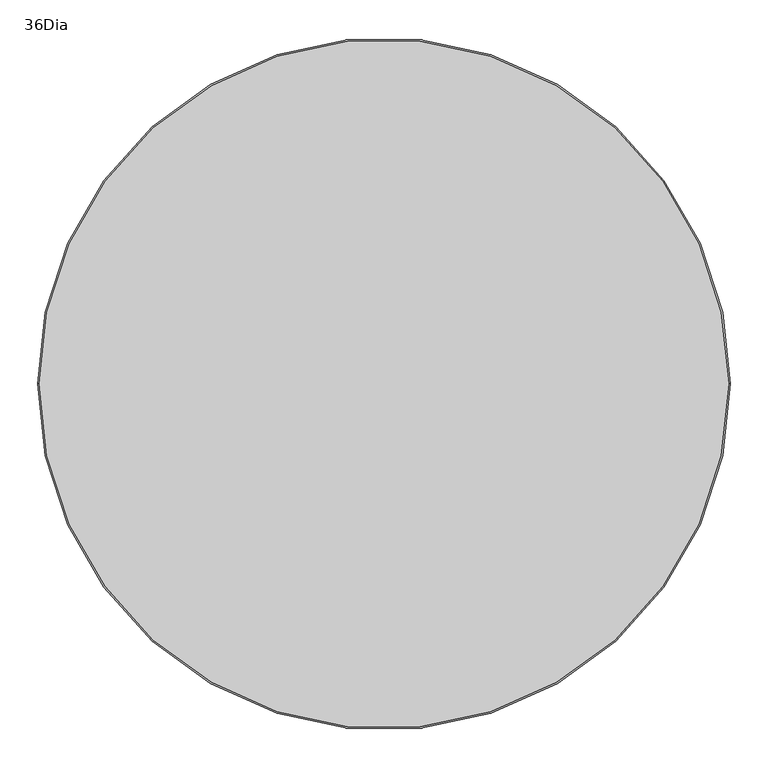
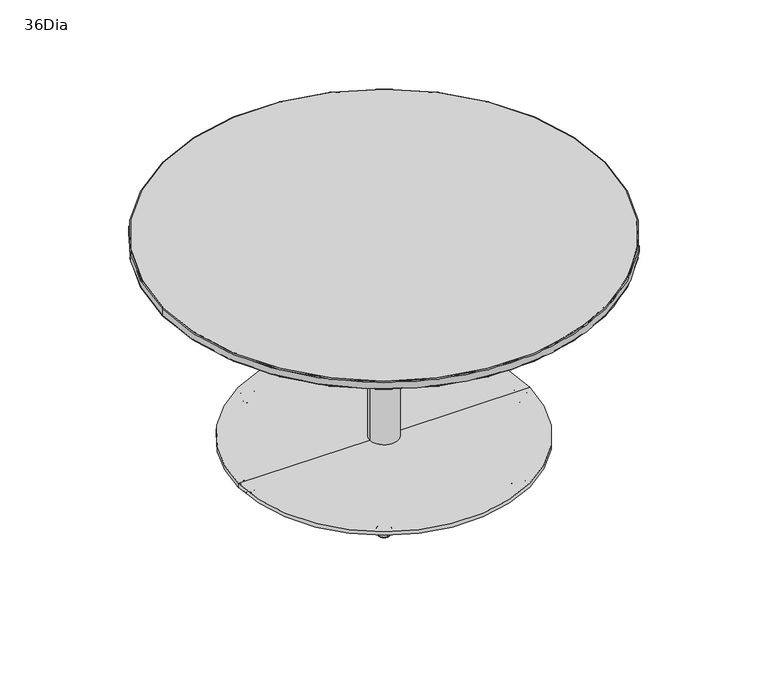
"""IFC4 building model written with IfcOpenShell, lengths in millimetres: furniture geometry, Coalesse_AM_Table_Occasional_Montara650Table_Round : 36Dia."""

from ifc_helpers import new_model, si_unit, point, frame, origin, origin_with_axes, origin_2d, place, context, project, spatial, polyline, circle_curve, ellipse_curve, trimmed, segment, composite_curve, outline, extrude, source, transform, mapped, element, save
from ifc_brep_helpers import plane_surface, cylinder_surface, revolved_surface, advanced_brep


def furniture_36dia_86788407(model_context):
    return source(origin(), model_context, "Body", "SolidModel", [
        advanced_brep(
        [(140.1902286, -242.2232047, 0.0), (147.532871, -249.5658472, 0.0), (132.8475862, -234.8805623, 0.0), (148.0793732, -250.1123493, 0.5718943), (132.301084, -234.3340602, 0.5718943), (150.3784723, -252.4114484, 11.2068005), (130.0019849, -232.0349611, 11.2068005), (149.9634515, -251.9964276, 11.9999882), (130.4170057, -232.4499819, 11.9999882), (140.1902286, -242.2232047, 11.9999882)],
        [
            (0, 1),
            (1, 2, circle_curve(frame((140.1902286, -242.2232047, 0.0), z_axis=(0.0, 0.0, -1.0), x_axis=(0.7071067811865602, -0.7071067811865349, 0.0)), 10.3840645)),
            (2, 0),
            (2, 1, circle_curve(frame((140.1902286, -242.2232047, 0.0), z_axis=(0.0, 0.0, -1.0), x_axis=(0.7071067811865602, -0.7071067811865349, 0.0)), 10.3840645)),
            (1, 3, circle_curve(frame((147.532871, -249.5658472, 0.8081846), z_axis=(-0.7071067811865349, -0.7071067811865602, 0.0), x_axis=(0.7071067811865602, -0.7071067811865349, 0.0)), 0.8081846)),
            (3, 4, circle_curve(frame((140.1902286, -242.2232047, 0.5718943), z_axis=(0.0, 0.0, -1.0), x_axis=(0.7071067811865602, -0.7071067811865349, 0.0)), 11.1569353)),
            (4, 2, circle_curve(frame((132.8475862, -234.8805623, 0.8081846), z_axis=(-0.7071067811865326, -0.7071067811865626, 0.0), x_axis=(-0.7071067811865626, 0.7071067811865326, 0.0)), 0.8081846)),
            (4, 3, circle_curve(frame((140.1902286, -242.2232047, 0.5718943), z_axis=(0.0, 0.0, -1.0), x_axis=(0.7071067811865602, -0.7071067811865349, 0.0)), 11.1569353)),
            (3, 5),
            (5, 6, circle_curve(frame((140.1902286, -242.2232047, 11.2068005), z_axis=(0.0, 0.0, -1.0), x_axis=(0.7071067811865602, -0.7071067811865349, 0.0)), 14.4083524)),
            (6, 4),
            (6, 5, circle_curve(frame((140.1902286, -242.2232047, 11.2068005), z_axis=(0.0, 0.0, -1.0), x_axis=(0.7071067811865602, -0.7071067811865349, 0.0)), 14.4083524)),
            (5, 7, circle_curve(frame((149.9634515, -251.9964276, 11.3862424), z_axis=(-0.7071067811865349, -0.7071067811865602, 0.0), x_axis=(0.7071067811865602, -0.7071067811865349, 0.0)), 0.6137458)),
            (7, 8, circle_curve(frame((140.1902286, -242.2232047, 11.9999882), z_axis=(0.0, 0.0, -1.0), x_axis=(0.7071067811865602, -0.7071067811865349, 0.0)), 13.8214243)),
            (8, 6, circle_curve(frame((130.4170057, -232.4499819, 11.3862424), z_axis=(-0.7071067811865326, -0.7071067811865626, 0.0), x_axis=(-0.7071067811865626, 0.7071067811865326, 0.0)), 0.6137458)),
            (8, 7, circle_curve(frame((140.1902286, -242.2232047, 11.9999882), z_axis=(0.0, 0.0, -1.0), x_axis=(0.7071067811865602, -0.7071067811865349, 0.0)), 13.8214243)),
            (7, 9),
            (9, 8),
        ],
        [
            plane_surface(frame((140.1902286, -242.2232047, 0.0), z_axis=(0.0, 0.0, -1.0000000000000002), x_axis=(0.7071067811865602, -0.7071067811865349, 0.0))),
            revolved_surface(trimmed(ellipse_curve(frame((147.532871, -249.5658472, 0.8081846), z_axis=(0.7071067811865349, 0.7071067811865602, 0.0), x_axis=(0.7071067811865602, -0.7071067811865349, 0.0)), 0.8081846, 0.8081846), [point((148.0793732, -250.1123493, 0.5718943))], [point((147.532871, -249.5658472, 0.0))], True, "CARTESIAN"), (140.1902286, -242.2232047, 12.2086845), (0.0, 0.0, -1.0)),
            revolved_surface(polyline([(150.3784723, -252.4114484, 11.2068005), (148.0793732, -250.1123493, 0.5718943)]), (140.1902286, -242.2232047, 12.2086845), (0.0, 0.0, -1.0)),
            revolved_surface(trimmed(ellipse_curve(frame((149.9634515, -251.9964276, 11.3862424), z_axis=(0.7071067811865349, 0.7071067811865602, 0.0), x_axis=(0.7071067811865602, -0.7071067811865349, 0.0)), 0.6137458, 0.6137458), [point((149.9634515, -251.9964276, 11.9999882))], [point((150.3784723, -252.4114484, 11.2068005))], True, "CARTESIAN"), (140.1902286, -242.2232047, 12.2086845), (0.0, 0.0, -1.0)),
            plane_surface(frame((140.1902286, -242.2232047, 11.9999882), z_axis=(0.0, 0.0, 1.0000000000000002), x_axis=(0.7071067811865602, -0.7071067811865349, 0.0))),
        ],
        [
            (0, [[1, 2, 3]]),
            (0, [[-3, 4, -1]]),
            (1, [[-2, 5, 6, 7]]),
            (1, [[-4, -7, 8, -5]]),
            (2, [[-6, 9, 10, 11]]),
            (2, [[-8, -11, 12, -9]]),
            (3, [[-10, 13, 14, 15]]),
            (3, [[-12, -15, 16, -13]]),
            (4, [[-14, 17, 18]]),
            (4, [[-16, -18, -17]]),
        ],
    ),
        advanced_brep(
        [(-272.6726436, 7.3478584, 0.0), (-287.3579284, -7.3374265, 0.0), (-280.015286, 0.005216, 0.0), (-272.1261414, 7.8943605, 0.5718943), (-287.9044306, -7.8839286, 0.5718943), (-269.8270423, 10.1934596, 11.2068005), (-290.2035297, -10.1830277, 11.2068005), (-270.2420631, 9.7784388, 11.9999882), (-289.7885089, -9.7680069, 11.9999882), (-280.015286, 0.005216, 11.9999882)],
        [
            (0, 1, circle_curve(frame((-280.015286, 0.005216, 0.0), z_axis=(0.0, 0.0, -1.0), x_axis=(-0.7071067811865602, -0.7071067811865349, 0.0)), 10.3840645)),
            (1, 2),
            (2, 0),
            (1, 0, circle_curve(frame((-280.015286, 0.005216, 0.0), z_axis=(0.0, 0.0, -1.0), x_axis=(-0.7071067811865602, -0.7071067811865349, 0.0)), 10.3840645)),
            (3, 4, circle_curve(frame((-280.015286, 0.005216, 0.5718943), z_axis=(0.0, 0.0, -1.0), x_axis=(-0.7071067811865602, -0.7071067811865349, 0.0)), 11.1569353)),
            (4, 1, circle_curve(frame((-287.3579284, -7.3374265, 0.8081846), z_axis=(0.7071067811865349, -0.7071067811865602, 0.0), x_axis=(-0.7071067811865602, -0.7071067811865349, 0.0)), 0.8081846)),
            (0, 3, circle_curve(frame((-272.6726436, 7.3478584, 0.8081846), z_axis=(0.7071067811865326, -0.7071067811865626, 0.0), x_axis=(0.7071067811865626, 0.7071067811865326, 0.0)), 0.8081846)),
            (4, 3, circle_curve(frame((-280.015286, 0.005216, 0.5718943), z_axis=(0.0, 0.0, -1.0), x_axis=(-0.7071067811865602, -0.7071067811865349, 0.0)), 11.1569353)),
            (5, 6, circle_curve(frame((-280.015286, 0.005216, 11.2068005), z_axis=(0.0, 0.0, -1.0), x_axis=(-0.7071067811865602, -0.7071067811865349, 0.0)), 14.4083524)),
            (6, 4),
            (3, 5),
            (6, 5, circle_curve(frame((-280.015286, 0.005216, 11.2068005), z_axis=(0.0, 0.0, -1.0), x_axis=(-0.7071067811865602, -0.7071067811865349, 0.0)), 14.4083524)),
            (7, 8, circle_curve(frame((-280.015286, 0.005216, 11.9999882), z_axis=(0.0, 0.0, -1.0), x_axis=(-0.7071067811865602, -0.7071067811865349, 0.0)), 13.8214243)),
            (8, 6, circle_curve(frame((-289.7885089, -9.7680069, 11.3862424), z_axis=(0.7071067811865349, -0.7071067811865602, 0.0), x_axis=(-0.7071067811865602, -0.7071067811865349, 0.0)), 0.6137458)),
            (5, 7, circle_curve(frame((-270.2420631, 9.7784388, 11.3862424), z_axis=(0.7071067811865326, -0.7071067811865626, 0.0), x_axis=(0.7071067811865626, 0.7071067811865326, 0.0)), 0.6137458)),
            (8, 7, circle_curve(frame((-280.015286, 0.005216, 11.9999882), z_axis=(0.0, 0.0, -1.0), x_axis=(-0.7071067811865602, -0.7071067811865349, 0.0)), 13.8214243)),
            (9, 8),
            (7, 9),
        ],
        [
            plane_surface(frame((-280.015286, 0.005216, 0.0), z_axis=(0.0, 0.0, -1.0000000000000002), x_axis=(-0.7071067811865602, -0.7071067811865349, 0.0))),
            revolved_surface(trimmed(ellipse_curve(frame((-287.3579284, -7.3374265, 0.8081846), z_axis=(-0.7071067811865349, 0.7071067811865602, 0.0), x_axis=(-0.7071067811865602, -0.7071067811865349, 0.0)), 0.8081846, 0.8081846), [point((-287.3579284, -7.3374265, 0.0))], [point((-287.9044306, -7.8839286, 0.5718943))], True, "CARTESIAN"), (-280.015286, 0.005216, 12.2086845), (0.0, 0.0, 1.0)),
            revolved_surface(polyline([(-287.9044306, -7.8839286, 0.5718943), (-290.2035297, -10.1830277, 11.2068005)]), (-280.015286, 0.005216, 12.2086845), (0.0, 0.0, 1.0)),
            revolved_surface(trimmed(ellipse_curve(frame((-289.7885089, -9.7680069, 11.3862424), z_axis=(-0.7071067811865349, 0.7071067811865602, 0.0), x_axis=(-0.7071067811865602, -0.7071067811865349, 0.0)), 0.6137458, 0.6137458), [point((-290.2035297, -10.1830277, 11.2068005))], [point((-289.7885089, -9.7680069, 11.9999882))], True, "CARTESIAN"), (-280.015286, 0.005216, 12.2086845), (0.0, 0.0, 1.0)),
            plane_surface(frame((-280.015286, 0.005216, 11.9999882), z_axis=(0.0, 0.0, 1.0000000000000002), x_axis=(-0.7071067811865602, -0.7071067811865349, 0.0))),
        ],
        [
            (0, [[1, 2, 3]]),
            (0, [[4, -3, -2]]),
            (1, [[5, 6, -1, 7]]),
            (1, [[8, -7, -4, -6]]),
            (2, [[9, 10, -5, 11]]),
            (2, [[12, -11, -8, -10]]),
            (3, [[13, 14, -9, 15]]),
            (3, [[16, -15, -12, -14]]),
            (4, [[17, -13, 18]]),
            (4, [[-18, -16, -17]]),
        ],
    ),
        advanced_brep(
        [(-139.956746, -232.3431955, 0.0), (-139.956746, -253.1113245, 0.0), (-139.956746, -242.72726, 0.0), (-139.956746, -231.5703248, 0.5718943), (-139.956746, -253.8841953, 0.5718943), (-139.956746, -228.3189076, 11.2068005), (-139.956746, -257.1356124, 11.2068005), (-139.956746, -228.9058357, 11.9999882), (-139.956746, -256.5486844, 11.9999882), (-139.956746, -242.72726, 11.9999882)],
        [
            (0, 1, circle_curve(frame((-139.956746, -242.72726, 0.0), z_axis=(0.0, 0.0, -1.0), x_axis=(0.0, -1.0, 0.0)), 10.3840645)),
            (1, 2),
            (2, 0),
            (1, 0, circle_curve(frame((-139.956746, -242.72726, 0.0), z_axis=(0.0, 0.0, -1.0), x_axis=(0.0, -1.0, 0.0)), 10.3840645)),
            (3, 4, circle_curve(frame((-139.956746, -242.72726, 0.5718943), z_axis=(0.0, 0.0, -1.0), x_axis=(0.0, -1.0, 0.0)), 11.1569353)),
            (4, 1, circle_curve(frame((-139.956746, -253.1113245, 0.8081846), z_axis=(1.0, 0.0, 0.0), x_axis=(0.0, -1.0, 0.0)), 0.8081846)),
            (0, 3, circle_curve(frame((-139.956746, -232.3431955, 0.8081846), z_axis=(1.0, 0.0, 0.0), x_axis=(0.0, 1.0, 0.0)), 0.8081846)),
            (4, 3, circle_curve(frame((-139.956746, -242.72726, 0.5718943), z_axis=(0.0, 0.0, -1.0), x_axis=(0.0, -1.0, 0.0)), 11.1569353)),
            (5, 6, circle_curve(frame((-139.956746, -242.72726, 11.2068005), z_axis=(0.0, 0.0, -1.0), x_axis=(0.0, -1.0, 0.0)), 14.4083524)),
            (6, 4),
            (3, 5),
            (6, 5, circle_curve(frame((-139.956746, -242.72726, 11.2068005), z_axis=(0.0, 0.0, -1.0), x_axis=(0.0, -1.0, 0.0)), 14.4083524)),
            (7, 8, circle_curve(frame((-139.956746, -242.72726, 11.9999882), z_axis=(0.0, 0.0, -1.0), x_axis=(0.0, -1.0, 0.0)), 13.8214243)),
            (8, 6, circle_curve(frame((-139.956746, -256.5486844, 11.3862424), z_axis=(1.0, 0.0, 0.0), x_axis=(0.0, -1.0, 0.0)), 0.6137458)),
            (5, 7, circle_curve(frame((-139.956746, -228.9058357, 11.3862424), z_axis=(1.0, 0.0, 0.0), x_axis=(0.0, 1.0, 0.0)), 0.6137458)),
            (8, 7, circle_curve(frame((-139.956746, -242.72726, 11.9999882), z_axis=(0.0, 0.0, -1.0), x_axis=(0.0, -1.0, 0.0)), 13.8214243)),
            (9, 8),
            (7, 9),
        ],
        [
            plane_surface(frame((-139.956746, -242.72726, 0.0), z_axis=(0.0, 0.0, -1.0), x_axis=(0.0, -1.0, 0.0))),
            revolved_surface(trimmed(ellipse_curve(frame((-139.956746, -253.1113245, 0.8081846), z_axis=(-1.0, 0.0, 0.0), x_axis=(0.0, -1.0, 0.0)), 0.8081846, 0.8081846), [point((-139.956746, -253.1113245, 0.0))], [point((-139.956746, -253.8841953, 0.5718943))], True, "CARTESIAN"), (-139.956746, -242.72726, 12.2086845), (0.0, 0.0, 1.0)),
            revolved_surface(polyline([(-139.956746, -253.8841953, 0.5718943), (-139.956746, -257.1356124, 11.2068005)]), (-139.956746, -242.72726, 12.2086845), (0.0, 0.0, 1.0)),
            revolved_surface(trimmed(ellipse_curve(frame((-139.956746, -256.5486844, 11.3862424), z_axis=(-1.0, 0.0, 0.0), x_axis=(0.0, -1.0, 0.0)), 0.6137458, 0.6137458), [point((-139.956746, -257.1356124, 11.2068005))], [point((-139.956746, -256.5486844, 11.9999882))], True, "CARTESIAN"), (-139.956746, -242.72726, 12.2086845), (0.0, 0.0, 1.0)),
            plane_surface(frame((-139.956746, -242.72726, 11.9999882), z_axis=(0.0, 0.0, 1.0), x_axis=(0.0, -1.0, 0.0))),
        ],
        [
            (0, [[1, 2, 3]]),
            (0, [[4, -3, -2]]),
            (1, [[5, 6, -1, 7]]),
            (1, [[8, -7, -4, -6]]),
            (2, [[9, 10, -5, 11]]),
            (2, [[12, -11, -8, -10]]),
            (3, [[13, 14, -9, 15]]),
            (3, [[16, -15, -12, -14]]),
            (4, [[17, -13, 18]]),
            (4, [[-18, -16, -17]]),
        ],
    ),
        advanced_brep(
        [(272.6279276, -5.5927106, 0.0), (287.3132124, 9.0925742, 0.0), (279.97057, 1.7499318, 0.0), (272.0814254, -6.1392128, 0.5718943), (287.8597146, 9.6390764, 0.5718943), (269.7823263, -8.4383119, 11.2068005), (290.1588137, 11.9381755, 11.2068005), (270.1973471, -8.0232911, 11.9999882), (289.7437929, 11.5231547, 11.9999882), (279.97057, 1.7499318, 11.9999882)],
        [
            (0, 1, circle_curve(frame((279.97057, 1.7499318, 0.0), z_axis=(0.0, 0.0, -1.0), x_axis=(0.7071067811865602, 0.7071067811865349, 0.0)), 10.3840645)),
            (1, 2),
            (2, 0),
            (1, 0, circle_curve(frame((279.97057, 1.7499318, 0.0), z_axis=(0.0, 0.0, -1.0), x_axis=(0.7071067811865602, 0.7071067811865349, 0.0)), 10.3840645)),
            (3, 4, circle_curve(frame((279.97057, 1.7499318, 0.5718943), z_axis=(0.0, 0.0, -1.0), x_axis=(0.7071067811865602, 0.7071067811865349, 0.0)), 11.1569353)),
            (4, 1, circle_curve(frame((287.3132124, 9.0925742, 0.8081846), z_axis=(-0.7071067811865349, 0.7071067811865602, 0.0), x_axis=(0.7071067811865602, 0.7071067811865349, 0.0)), 0.8081846)),
            (0, 3, circle_curve(frame((272.6279276, -5.5927106, 0.8081846), z_axis=(-0.7071067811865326, 0.7071067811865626, 0.0), x_axis=(-0.7071067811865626, -0.7071067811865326, 0.0)), 0.8081846)),
            (4, 3, circle_curve(frame((279.97057, 1.7499318, 0.5718943), z_axis=(0.0, 0.0, -1.0), x_axis=(0.7071067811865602, 0.7071067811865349, 0.0)), 11.1569353)),
            (5, 6, circle_curve(frame((279.97057, 1.7499318, 11.2068005), z_axis=(0.0, 0.0, -1.0), x_axis=(0.7071067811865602, 0.7071067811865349, 0.0)), 14.4083524)),
            (6, 4),
            (3, 5),
            (6, 5, circle_curve(frame((279.97057, 1.7499318, 11.2068005), z_axis=(0.0, 0.0, -1.0), x_axis=(0.7071067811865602, 0.7071067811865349, 0.0)), 14.4083524)),
            (7, 8, circle_curve(frame((279.97057, 1.7499318, 11.9999882), z_axis=(0.0, 0.0, -1.0), x_axis=(0.7071067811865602, 0.7071067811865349, 0.0)), 13.8214243)),
            (8, 6, circle_curve(frame((289.7437929, 11.5231547, 11.3862424), z_axis=(-0.7071067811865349, 0.7071067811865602, 0.0), x_axis=(0.7071067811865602, 0.7071067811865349, 0.0)), 0.6137458)),
            (5, 7, circle_curve(frame((270.1973471, -8.0232911, 11.3862424), z_axis=(-0.7071067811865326, 0.7071067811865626, 0.0), x_axis=(-0.7071067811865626, -0.7071067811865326, 0.0)), 0.6137458)),
            (8, 7, circle_curve(frame((279.97057, 1.7499318, 11.9999882), z_axis=(0.0, 0.0, -1.0), x_axis=(0.7071067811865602, 0.7071067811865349, 0.0)), 13.8214243)),
            (9, 8),
            (7, 9),
        ],
        [
            plane_surface(frame((279.97057, 1.7499318, 0.0), z_axis=(0.0, 0.0, -1.0000000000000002), x_axis=(0.7071067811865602, 0.7071067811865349, 0.0))),
            revolved_surface(trimmed(ellipse_curve(frame((287.3132124, 9.0925742, 0.8081846), z_axis=(0.7071067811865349, -0.7071067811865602, 0.0), x_axis=(0.7071067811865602, 0.7071067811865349, 0.0)), 0.8081846, 0.8081846), [point((287.3132124, 9.0925742, 0.0))], [point((287.8597146, 9.6390764, 0.5718943))], True, "CARTESIAN"), (279.97057, 1.7499318, 12.2086845), (0.0, 0.0, 1.0)),
            revolved_surface(polyline([(287.8597146, 9.6390764, 0.5718943), (290.1588137, 11.9381755, 11.2068005)]), (279.97057, 1.7499318, 12.2086845), (0.0, 0.0, 1.0)),
            revolved_surface(trimmed(ellipse_curve(frame((289.7437929, 11.5231547, 11.3862424), z_axis=(0.7071067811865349, -0.7071067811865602, 0.0), x_axis=(0.7071067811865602, 0.7071067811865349, 0.0)), 0.6137458, 0.6137458), [point((290.1588137, 11.9381755, 11.2068005))], [point((289.7437929, 11.5231547, 11.9999882))], True, "CARTESIAN"), (279.97057, 1.7499318, 12.2086845), (0.0, 0.0, 1.0)),
            plane_surface(frame((279.97057, 1.7499318, 11.9999882), z_axis=(0.0, 0.0, 1.0000000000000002), x_axis=(0.7071067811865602, 0.7071067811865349, 0.0))),
        ],
        [
            (0, [[1, 2, 3]]),
            (0, [[4, -3, -2]]),
            (1, [[5, 6, -1, 7]]),
            (1, [[8, -7, -4, -6]]),
            (2, [[9, 10, -5, 11]]),
            (2, [[12, -11, -8, -10]]),
            (3, [[13, 14, -9, 15]]),
            (3, [[16, -15, -12, -14]]),
            (4, [[17, -13, 18]]),
            (4, [[-18, -16, -17]]),
        ],
    ),
        advanced_brep(
        [(-140.2461986, 242.0572828, 0.0), (-147.5888411, 249.3999252, 0.0), (-132.9035562, 234.7146404, 0.0), (-148.1353432, 249.9464274, 0.5718943), (-132.357054, 234.1681382, 0.5718943), (-150.4344423, 252.2455265, 11.2068005), (-130.057955, 231.8690391, 11.2068005), (-150.0194215, 251.8305057, 11.9999882), (-130.4729758, 232.2840599, 11.9999882), (-140.2461986, 242.0572828, 11.9999882)],
        [
            (0, 1),
            (1, 2, circle_curve(frame((-140.2461986, 242.0572828, 0.0), z_axis=(0.0, 0.0, -1.0), x_axis=(-0.7071067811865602, 0.7071067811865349, 0.0)), 10.3840645)),
            (2, 0),
            (2, 1, circle_curve(frame((-140.2461986, 242.0572828, 0.0), z_axis=(0.0, 0.0, -1.0), x_axis=(-0.7071067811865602, 0.7071067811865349, 0.0)), 10.3840645)),
            (1, 3, circle_curve(frame((-147.5888411, 249.3999252, 0.8081846), z_axis=(0.7071067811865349, 0.7071067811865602, 0.0), x_axis=(-0.7071067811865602, 0.7071067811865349, 0.0)), 0.8081846)),
            (3, 4, circle_curve(frame((-140.2461986, 242.0572828, 0.5718943), z_axis=(0.0, 0.0, -1.0), x_axis=(-0.7071067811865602, 0.7071067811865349, 0.0)), 11.1569353)),
            (4, 2, circle_curve(frame((-132.9035562, 234.7146404, 0.8081846), z_axis=(0.7071067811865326, 0.7071067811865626, 0.0), x_axis=(0.7071067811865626, -0.7071067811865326, 0.0)), 0.8081846)),
            (4, 3, circle_curve(frame((-140.2461986, 242.0572828, 0.5718943), z_axis=(0.0, 0.0, -1.0), x_axis=(-0.7071067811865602, 0.7071067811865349, 0.0)), 11.1569353)),
            (3, 5),
            (5, 6, circle_curve(frame((-140.2461986, 242.0572828, 11.2068005), z_axis=(0.0, 0.0, -1.0), x_axis=(-0.7071067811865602, 0.7071067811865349, 0.0)), 14.4083524)),
            (6, 4),
            (6, 5, circle_curve(frame((-140.2461986, 242.0572828, 11.2068005), z_axis=(0.0, 0.0, -1.0), x_axis=(-0.7071067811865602, 0.7071067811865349, 0.0)), 14.4083524)),
            (5, 7, circle_curve(frame((-150.0194215, 251.8305057, 11.3862424), z_axis=(0.7071067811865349, 0.7071067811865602, 0.0), x_axis=(-0.7071067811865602, 0.7071067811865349, 0.0)), 0.6137458)),
            (7, 8, circle_curve(frame((-140.2461986, 242.0572828, 11.9999882), z_axis=(0.0, 0.0, -1.0), x_axis=(-0.7071067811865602, 0.7071067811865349, 0.0)), 13.8214243)),
            (8, 6, circle_curve(frame((-130.4729758, 232.2840599, 11.3862424), z_axis=(0.7071067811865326, 0.7071067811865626, 0.0), x_axis=(0.7071067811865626, -0.7071067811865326, 0.0)), 0.6137458)),
            (8, 7, circle_curve(frame((-140.2461986, 242.0572828, 11.9999882), z_axis=(0.0, 0.0, -1.0), x_axis=(-0.7071067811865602, 0.7071067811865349, 0.0)), 13.8214243)),
            (7, 9),
            (9, 8),
        ],
        [
            plane_surface(frame((-140.2461986, 242.0572828, 0.0), z_axis=(0.0, 0.0, -1.0000000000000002), x_axis=(-0.7071067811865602, 0.7071067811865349, 0.0))),
            revolved_surface(trimmed(ellipse_curve(frame((-147.5888411, 249.3999252, 0.8081846), z_axis=(-0.7071067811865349, -0.7071067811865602, 0.0), x_axis=(-0.7071067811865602, 0.7071067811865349, 0.0)), 0.8081846, 0.8081846), [point((-148.1353432, 249.9464274, 0.5718943))], [point((-147.5888411, 249.3999252, 0.0))], True, "CARTESIAN"), (-140.2461986, 242.0572828, 12.2086845), (0.0, 0.0, -1.0)),
            revolved_surface(polyline([(-150.4344423, 252.2455265, 11.2068005), (-148.1353432, 249.9464274, 0.5718943)]), (-140.2461986, 242.0572828, 12.2086845), (0.0, 0.0, -1.0)),
            revolved_surface(trimmed(ellipse_curve(frame((-150.0194215, 251.8305057, 11.3862424), z_axis=(-0.7071067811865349, -0.7071067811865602, 0.0), x_axis=(-0.7071067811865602, 0.7071067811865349, 0.0)), 0.6137458, 0.6137458), [point((-150.0194215, 251.8305057, 11.9999882))], [point((-150.4344423, 252.2455265, 11.2068005))], True, "CARTESIAN"), (-140.2461986, 242.0572828, 12.2086845), (0.0, 0.0, -1.0)),
            plane_surface(frame((-140.2461986, 242.0572828, 11.9999882), z_axis=(0.0, 0.0, 1.0000000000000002), x_axis=(-0.7071067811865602, 0.7071067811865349, 0.0))),
        ],
        [
            (0, [[1, 2, 3]]),
            (0, [[-3, 4, -1]]),
            (1, [[-2, 5, 6, 7]]),
            (1, [[-4, -7, 8, -5]]),
            (2, [[-6, 9, 10, 11]]),
            (2, [[-8, -11, 12, -9]]),
            (3, [[-10, 13, 14, 15]]),
            (3, [[-12, -15, 16, -13]]),
            (4, [[-14, 17, 18]]),
            (4, [[-16, -18, -17]]),
        ],
    ),
        advanced_brep(
        [(140.9075639, 242.2893563, 0.0), (140.9075639, 252.6734208, 0.0), (140.9075639, 231.9052918, 0.0), (140.9075639, 253.4462915, 0.5718943), (140.9075639, 231.132421, 0.5718943), (140.9075639, 256.6977086, 11.2068005), (140.9075639, 227.8810039, 11.2068005), (140.9075639, 256.1107806, 11.9999882), (140.9075639, 228.4679319, 11.9999882), (140.9075639, 242.2893563, 11.9999882)],
        [
            (0, 1),
            (1, 2, circle_curve(frame((140.9075639, 242.2893563, 0.0), z_axis=(0.0, 0.0, -1.0), x_axis=(0.0, 1.0, 0.0)), 10.3840645)),
            (2, 0),
            (2, 1, circle_curve(frame((140.9075639, 242.2893563, 0.0), z_axis=(0.0, 0.0, -1.0), x_axis=(0.0, 1.0, 0.0)), 10.3840645)),
            (1, 3, circle_curve(frame((140.9075639, 252.6734208, 0.8081846), z_axis=(1.0, 0.0, 0.0), x_axis=(0.0, 1.0, 0.0)), 0.8081846)),
            (3, 4, circle_curve(frame((140.9075639, 242.2893563, 0.5718943), z_axis=(0.0, 0.0, -1.0), x_axis=(0.0, 1.0, 0.0)), 11.1569353)),
            (4, 2, circle_curve(frame((140.9075639, 231.9052918, 0.8081846), z_axis=(1.0, 0.0, 0.0), x_axis=(0.0, -1.0, 0.0)), 0.8081846)),
            (4, 3, circle_curve(frame((140.9075639, 242.2893563, 0.5718943), z_axis=(0.0, 0.0, -1.0), x_axis=(0.0, 1.0, 0.0)), 11.1569353)),
            (3, 5),
            (5, 6, circle_curve(frame((140.9075639, 242.2893563, 11.2068005), z_axis=(0.0, 0.0, -1.0), x_axis=(0.0, 1.0, 0.0)), 14.4083524)),
            (6, 4),
            (6, 5, circle_curve(frame((140.9075639, 242.2893563, 11.2068005), z_axis=(0.0, 0.0, -1.0), x_axis=(0.0, 1.0, 0.0)), 14.4083524)),
            (5, 7, circle_curve(frame((140.9075639, 256.1107806, 11.3862424), z_axis=(1.0, 0.0, 0.0), x_axis=(0.0, 1.0, 0.0)), 0.6137458)),
            (7, 8, circle_curve(frame((140.9075639, 242.2893563, 11.9999882), z_axis=(0.0, 0.0, -1.0), x_axis=(0.0, 1.0, 0.0)), 13.8214243)),
            (8, 6, circle_curve(frame((140.9075639, 228.4679319, 11.3862424), z_axis=(1.0, 0.0, 0.0), x_axis=(0.0, -1.0, 0.0)), 0.6137458)),
            (8, 7, circle_curve(frame((140.9075639, 242.2893563, 11.9999882), z_axis=(0.0, 0.0, -1.0), x_axis=(0.0, 1.0, 0.0)), 13.8214243)),
            (7, 9),
            (9, 8),
        ],
        [
            plane_surface(frame((140.9075639, 242.2893563, 0.0), z_axis=(0.0, 0.0, -1.0), x_axis=(0.0, 1.0, 0.0))),
            revolved_surface(trimmed(ellipse_curve(frame((140.9075639, 252.6734208, 0.8081846), z_axis=(-1.0, 0.0, 0.0), x_axis=(0.0, 1.0, 0.0)), 0.8081846, 0.8081846), [point((140.9075639, 253.4462915, 0.5718943))], [point((140.9075639, 252.6734208, 0.0))], True, "CARTESIAN"), (140.9075639, 242.2893563, 12.2086845), (0.0, 0.0, -1.0)),
            revolved_surface(polyline([(140.9075639, 256.6977086, 11.2068005), (140.9075639, 253.4462915, 0.5718943)]), (140.9075639, 242.2893563, 12.2086845), (0.0, 0.0, -1.0)),
            revolved_surface(trimmed(ellipse_curve(frame((140.9075639, 256.1107806, 11.3862424), z_axis=(-1.0, 0.0, 0.0), x_axis=(0.0, 1.0, 0.0)), 0.6137458, 0.6137458), [point((140.9075639, 256.1107806, 11.9999882))], [point((140.9075639, 256.6977086, 11.2068005))], True, "CARTESIAN"), (140.9075639, 242.2893563, 12.2086845), (0.0, 0.0, -1.0)),
            plane_surface(frame((140.9075639, 242.2893563, 11.9999882), z_axis=(0.0, 0.0, 1.0), x_axis=(0.0, 1.0, 0.0))),
        ],
        [
            (0, [[1, 2, 3]]),
            (0, [[-3, 4, -1]]),
            (1, [[-2, 5, 6, 7]]),
            (1, [[-4, -7, 8, -5]]),
            (2, [[-6, 9, 10, 11]]),
            (2, [[-8, -11, 12, -9]]),
            (3, [[-10, 13, 14, 15]]),
            (3, [[-12, -15, 16, -13]]),
            (4, [[-14, 17, 18]]),
            (4, [[-16, -18, -17]]),
        ],
    ),
        advanced_brep(
        [(-279.7783052, 0.0, 0.0), (-290.1623697, 0.0, 0.0), (-269.3942407, 0.0, 0.0), (-290.9352405, 0.0, 0.5718943), (-268.62137, 0.0, 0.5718943), (-294.1866576, 0.0, 11.2068005), (-265.3699529, 0.0, 11.2068005), (-293.5997296, 0.0, 11.9999882), (-265.9568809, 0.0, 11.9999882), (-279.7783052, 0.0, 11.9999882)],
        [
            (0, 1),
            (1, 2, circle_curve(frame((-279.7783052, 0.0, 0.0), z_axis=(0.0, 0.0, -1.0), x_axis=(-1.0, 0.0, 0.0)), 10.3840645)),
            (2, 0),
            (2, 1, circle_curve(frame((-279.7783052, 0.0, 0.0), z_axis=(0.0, 0.0, -1.0), x_axis=(-1.0, 0.0, 0.0)), 10.3840645)),
            (1, 3, circle_curve(frame((-290.1623697, 0.0, 0.8081846), z_axis=(0.0, 1.0, 0.0), x_axis=(-1.0, 0.0, 0.0)), 0.8081846)),
            (3, 4, circle_curve(frame((-279.7783052, 0.0, 0.5718943), z_axis=(0.0, 0.0, -1.0), x_axis=(-1.0, 0.0, 0.0)), 11.1569353)),
            (4, 2, circle_curve(frame((-269.3942407, 0.0, 0.8081846), z_axis=(0.0, 1.0, 0.0), x_axis=(1.0, 0.0, 0.0)), 0.8081846)),
            (4, 3, circle_curve(frame((-279.7783052, 0.0, 0.5718943), z_axis=(0.0, 0.0, -1.0), x_axis=(-1.0, 0.0, 0.0)), 11.1569353)),
            (3, 5),
            (5, 6, circle_curve(frame((-279.7783052, 0.0, 11.2068005), z_axis=(0.0, 0.0, -1.0), x_axis=(-1.0, 0.0, 0.0)), 14.4083524)),
            (6, 4),
            (6, 5, circle_curve(frame((-279.7783052, 0.0, 11.2068005), z_axis=(0.0, 0.0, -1.0), x_axis=(-1.0, 0.0, 0.0)), 14.4083524)),
            (5, 7, circle_curve(frame((-293.5997296, 0.0, 11.3862424), z_axis=(0.0, 1.0, 0.0), x_axis=(-1.0, 0.0, 0.0)), 0.6137458)),
            (7, 8, circle_curve(frame((-279.7783052, 0.0, 11.9999882), z_axis=(0.0, 0.0, -1.0), x_axis=(-1.0, 0.0, 0.0)), 13.8214243)),
            (8, 6, circle_curve(frame((-265.9568809, 0.0, 11.3862424), z_axis=(0.0, 1.0, 0.0), x_axis=(1.0, 0.0, 0.0)), 0.6137458)),
            (8, 7, circle_curve(frame((-279.7783052, 0.0, 11.9999882), z_axis=(0.0, 0.0, -1.0), x_axis=(-1.0, 0.0, 0.0)), 13.8214243)),
            (7, 9),
            (9, 8),
        ],
        [
            plane_surface(frame((-279.7783052, 0.0, 0.0), z_axis=(0.0, 0.0, -1.0), x_axis=(-1.0, 0.0, 0.0))),
            revolved_surface(trimmed(ellipse_curve(frame((-290.1623697, 0.0, 0.8081846), z_axis=(0.0, -1.0, 0.0), x_axis=(-1.0, 0.0, 0.0)), 0.8081846, 0.8081846), [point((-290.9352405, 0.0, 0.5718943))], [point((-290.1623697, 0.0, 0.0))], True, "CARTESIAN"), (-279.7783052, 0.0, 12.2086845), (0.0, 0.0, -1.0)),
            revolved_surface(polyline([(-294.1866576, 0.0, 11.2068005), (-290.9352405, 0.0, 0.5718943)]), (-279.7783052, 0.0, 12.2086845), (0.0, 0.0, -1.0)),
            revolved_surface(trimmed(ellipse_curve(frame((-293.5997296, 0.0, 11.3862424), z_axis=(0.0, -1.0, 0.0), x_axis=(-1.0, 0.0, 0.0)), 0.6137458, 0.6137458), [point((-293.5997296, 0.0, 11.9999882))], [point((-294.1866576, 0.0, 11.2068005))], True, "CARTESIAN"), (-279.7783052, 0.0, 12.2086845), (0.0, 0.0, -1.0)),
            plane_surface(frame((-279.7783052, 0.0, 11.9999882), z_axis=(0.0, 0.0, 1.0), x_axis=(-1.0, 0.0, 0.0))),
        ],
        [
            (0, [[1, 2, 3]]),
            (0, [[-3, 4, -1]]),
            (1, [[-2, 5, 6, 7]]),
            (1, [[-4, -7, 8, -5]]),
            (2, [[-6, 9, 10, 11]]),
            (2, [[-8, -11, 12, -9]]),
            (3, [[-10, 13, 14, 15]]),
            (3, [[-12, -15, 16, -13]]),
            (4, [[-14, 17, 18]]),
            (4, [[-16, -18, -17]]),
        ],
    ),
        advanced_brep(
        [(131.6004101, 0.0, 424.055027), (-131.6004101, 0.0, 424.055027), (-176.1756918, 0.0, 424.055027), (176.1756918, 0.0, 424.055027), (37.412985, 0.0, 408.2837029), (-37.412985, 0.0, 408.2837029), (-50.008967, 0.0, 408.2837029), (50.008967, 0.0, 408.2837029), (29.5495828, 0.0, 19.9999965), (-29.5495828, 0.0, 19.9999965), (-29.5495828, 0.0, 420.0852036), (29.5495828, 0.0, 420.0852036), (300.6998255, 0.0, 19.9999965), (-300.6998255, 0.0, 19.9999965), (300.6998255, 0.0, 11.9999882), (-300.6998255, 0.0, 11.9999882), (0.0, 0.0, 11.9999882), (176.1756918, 0.0, 427.230027), (-176.1756918, 0.0, 427.230027), (0.0, 0.0, 427.230027), (33.3511087, 0.0, 409.7383874), (-33.3511087, 0.0, 409.7383874), (31.712334, 0.0, 420.0852036), (-31.712334, 0.0, 420.0852036), (121.585557, 0.0, 422.7987908), (-121.585557, 0.0, 422.7987908)],
        [
            (0, 1, circle_curve(frame((0.0, 0.0, 424.055027), z_axis=(0.0, 0.0, 1.0), x_axis=(-1.0, 0.0, 0.0)), 131.6004101)),
            (1, 2),
            (2, 3, circle_curve(frame((0.0, 0.0, 424.055027), z_axis=(0.0, 0.0, -1.0), x_axis=(-1.0, 0.0, 0.0)), 176.1756918)),
            (3, 0),
            (1, 0, circle_curve(frame((0.0, 0.0, 424.055027), z_axis=(0.0, 0.0, 1.0), x_axis=(-1.0, 0.0, 0.0)), 131.6004101)),
            (3, 2, circle_curve(frame((0.0, 0.0, 424.055027), z_axis=(0.0, 0.0, -1.0), x_axis=(-1.0, 0.0, 0.0)), 176.1756918)),
            (4, 5, circle_curve(frame((0.0, 0.0, 408.2837029), z_axis=(0.0, 0.0, 1.0), x_axis=(-1.0, 0.0, 0.0)), 37.412985)),
            (5, 6),
            (6, 7, circle_curve(frame((0.0, 0.0, 408.2837029), z_axis=(0.0, 0.0, -1.0), x_axis=(-1.0, 0.0, 0.0)), 50.008967)),
            (7, 4),
            (5, 4, circle_curve(frame((0.0, 0.0, 408.2837029), z_axis=(0.0, 0.0, 1.0), x_axis=(-1.0, 0.0, 0.0)), 37.412985)),
            (7, 6, circle_curve(frame((0.0, 0.0, 408.2837029), z_axis=(0.0, 0.0, -1.0), x_axis=(-1.0, 0.0, 0.0)), 50.008967)),
            (8, 9, circle_curve(frame((0.0, 0.0, 19.9999965), z_axis=(0.0, 0.0, 1.0), x_axis=(-1.0, 0.0, 0.0)), 29.5495828)),
            (9, 10),
            (10, 11, circle_curve(frame((0.0, 0.0, 420.0852036), z_axis=(0.0, 0.0, -1.0), x_axis=(-1.0, 0.0, 0.0)), 29.5495828)),
            (11, 8),
            (9, 8, circle_curve(frame((0.0, 0.0, 19.9999965), z_axis=(0.0, 0.0, 1.0), x_axis=(-1.0, 0.0, 0.0)), 29.5495828)),
            (11, 10, circle_curve(frame((0.0, 0.0, 420.0852036), z_axis=(0.0, 0.0, -1.0), x_axis=(-1.0, 0.0, 0.0)), 29.5495828)),
            (12, 13, circle_curve(frame((0.0, 0.0, 19.9999965), z_axis=(0.0, 0.0, 1.0), x_axis=(-1.0, 0.0, 0.0)), 300.6998255)),
            (13, 9),
            (8, 12),
            (13, 12, circle_curve(frame((0.0, 0.0, 19.9999965), z_axis=(0.0, 0.0, 1.0), x_axis=(-1.0, 0.0, 0.0)), 300.6998255)),
            (14, 15, circle_curve(frame((0.0, 0.0, 11.9999882), z_axis=(0.0, 0.0, 1.0), x_axis=(-1.0, 0.0, 0.0)), 300.6998255)),
            (15, 13),
            (12, 14),
            (15, 14, circle_curve(frame((0.0, 0.0, 11.9999882), z_axis=(0.0, 0.0, 1.0), x_axis=(-1.0, 0.0, 0.0)), 300.6998255)),
            (16, 15),
            (14, 16),
            (17, 18, circle_curve(frame((0.0, 0.0, 427.230027), z_axis=(0.0, 0.0, 1.0), x_axis=(-1.0, 0.0, 0.0)), 176.1756918)),
            (18, 19),
            (19, 17),
            (18, 17, circle_curve(frame((0.0, 0.0, 427.230027), z_axis=(0.0, 0.0, 1.0), x_axis=(-1.0, 0.0, 0.0)), 176.1756918)),
            (2, 18),
            (17, 3),
            (20, 21, circle_curve(frame((0.0, 0.0, 409.7383874), z_axis=(0.0, 0.0, 1.0), x_axis=(-1.0, 0.0, 0.0)), 33.3511087)),
            (21, 5),
            (4, 20),
            (21, 20, circle_curve(frame((0.0, 0.0, 409.7383874), z_axis=(0.0, 0.0, 1.0), x_axis=(-1.0, 0.0, 0.0)), 33.3511087)),
            (22, 23, circle_curve(frame((0.0, 0.0, 420.0852036), z_axis=(0.0, 0.0, 1.0), x_axis=(-1.0, 0.0, 0.0)), 31.712334)),
            (23, 21),
            (20, 22),
            (23, 22, circle_curve(frame((0.0, 0.0, 420.0852036), z_axis=(0.0, 0.0, 1.0), x_axis=(-1.0, 0.0, 0.0)), 31.712334)),
            (10, 23),
            (22, 11),
            (24, 25, circle_curve(frame((0.0, 0.0, 422.7987908), z_axis=(0.0, 0.0, 1.0), x_axis=(-1.0, 0.0, 0.0)), 121.585557)),
            (25, 1),
            (0, 24),
            (25, 24, circle_curve(frame((0.0, 0.0, 422.7987908), z_axis=(0.0, 0.0, 1.0), x_axis=(-1.0, 0.0, 0.0)), 121.585557)),
            (6, 25),
            (24, 7),
        ],
        [
            plane_surface(frame((0.0, 0.0, 424.055027), z_axis=(0.0, 0.0, -1.0), x_axis=(-1.0, 0.0, 0.0))),
            plane_surface(frame((0.0, 0.0, 408.2837029), z_axis=(0.0, 0.0, -1.0), x_axis=(-1.0, 0.0, 0.0))),
            cylinder_surface(frame((0.0, 0.0, 172.3999965), z_axis=(0.0, 0.0, -1.0), x_axis=(-1.0, 0.0, 0.0)), 29.5495828),
            plane_surface(frame((0.0, 0.0, 19.9999965), z_axis=(0.0, 0.0, 1.0), x_axis=(-1.0, 0.0, 0.0))),
            cylinder_surface(frame((0.0, 0.0, 172.3999965), z_axis=(0.0, 0.0, -1.0), x_axis=(-1.0, 0.0, 0.0)), 300.6998255),
            plane_surface(frame((0.0, 0.0, 11.9999882), z_axis=(0.0, 0.0, -1.0), x_axis=(-1.0, 0.0, 0.0))),
            plane_surface(frame((0.0, 0.0, 427.230027), z_axis=(0.0, 0.0, 1.0), x_axis=(-1.0, 0.0, 0.0))),
            cylinder_surface(frame((0.0, 0.0, 172.3999965), z_axis=(0.0, 0.0, -1.0), x_axis=(-1.0, 0.0, 0.0)), 176.1756918),
            revolved_surface(polyline([(-37.412985, 0.0, 408.2837029), (-33.3511087, 0.0, 409.7383874)]), (0.0, 0.0, 172.3999965), (0.0, 0.0, -1.0)),
            revolved_surface(polyline([(-33.3511087, 0.0, 409.7383874), (-31.712334, 0.0, 420.0852036)]), (0.0, 0.0, 172.3999965), (0.0, 0.0, -1.0)),
            plane_surface(frame((0.0, 0.0, 420.0852036), z_axis=(0.0, 0.0, -1.0), x_axis=(-1.0, 0.0, 0.0))),
            revolved_surface(polyline([(-131.6004101, 0.0, 424.055027), (-121.585557, 0.0, 422.7987908)]), (0.0, 0.0, 172.3999965), (0.0, 0.0, -1.0)),
            revolved_surface(polyline([(-121.585557, 0.0, 422.7987908), (-50.008967, 0.0, 408.2837029)]), (0.0, 0.0, 172.3999965), (0.0, 0.0, -1.0)),
        ],
        [
            (0, [[1, 2, 3, 4]]),
            (0, [[5, -4, 6, -2]]),
            (1, [[7, 8, 9, 10]]),
            (1, [[11, -10, 12, -8]]),
            (2, [[13, 14, 15, 16]]),
            (2, [[17, -16, 18, -14]]),
            (3, [[19, 20, -13, 21]]),
            (3, [[22, -21, -17, -20]]),
            (4, [[23, 24, -19, 25]]),
            (4, [[26, -25, -22, -24]]),
            (5, [[27, -23, 28]]),
            (5, [[-28, -26, -27]]),
            (6, [[29, 30, 31]]),
            (6, [[32, -31, -30]]),
            (7, [[-3, 33, -29, 34]]),
            (7, [[-6, -34, -32, -33]]),
            (8, [[35, 36, -7, 37]]),
            (8, [[38, -37, -11, -36]]),
            (9, [[39, 40, -35, 41]]),
            (9, [[42, -41, -38, -40]]),
            (10, [[-15, 43, -39, 44]]),
            (10, [[-18, -44, -42, -43]]),
            (11, [[45, 46, -1, 47]]),
            (11, [[48, -47, -5, -46]]),
            (12, [[-9, 49, -45, 50]]),
            (12, [[-12, -50, -48, -49]]),
        ],
    ),
        advanced_brep(
        [(-411.226, 0.0, 427.230027), (411.226, 0.0, 427.230027), (-455.168, 0.0, 439.495891), (455.168, 0.0, 439.495891)],
        [
            (0, 1, circle_curve(frame((0.0, 0.0, 427.230027), z_axis=(0.0, 0.0, -1.0), x_axis=(-1.0, 0.0, 0.0)), 411.226)),
            (1, 0, circle_curve(frame((0.0, 0.0, 427.230027), z_axis=(0.0, 0.0, -1.0), x_axis=(1.0, 0.0, 0.0)), 411.226)),
            (2, 3, circle_curve(frame((0.0, 0.0, 439.495891), z_axis=(0.0, 0.0, 1.0), x_axis=(1.0, 0.0, 0.0)), 455.168)),
            (3, 2, circle_curve(frame((0.0, 0.0, 439.495891), z_axis=(0.0, 0.0, 1.0), x_axis=(-1.0, 0.0, 0.0)), 455.168)),
            (2, 0),
            (1, 3),
        ],
        [
            plane_surface(frame((0.0, 0.0, 427.230027), z_axis=(0.0, 0.0, -1.0), x_axis=(0.0, -1.0, 0.0))),
            plane_surface(frame((0.0, 0.0, 439.495891), z_axis=(0.0, 0.0, 1.0), x_axis=(0.0, -1.0, 0.0))),
            revolved_surface(polyline([(411.22599990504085, 0.0, 427.230027), (455.168, 0.0, 439.495891)]), (0.0, 0.0, 312.4413925), (0.0, 0.0, 1.0)),
            revolved_surface(polyline([(-411.22599990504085, 0.0, 427.230027), (-455.168, 0.0, 439.495891)]), (0.0, 0.0, 312.4413925), (0.0, 0.0, 1.0)),
        ],
        [
            (0, [[1, 2]]),
            (1, [[3, 4]]),
            (2, [[-3, 5, -2, 6]]),
            (3, [[-4, -6, -1, -5]]),
        ],
    ),
        extrude(outline(composite_curve([segment(trimmed(circle_curve(origin_2d(), 455.168), [point((-455.168, 0.0))], [point((455.168, 0.0))], False, "CARTESIAN"), True, "CONTINUOUS"), segment(trimmed(circle_curve(origin_2d(), 455.168), [point((455.168, 0.0))], [point((-455.168, 0.0))], False, "CARTESIAN"), True, "CONTINUOUS")], self_intersect=False)), frame((0.0, 0.0, 439.495891), z_axis=(0.0, 0.0, 1.0), x_axis=(1.0, 0.0, 0.0)), (0.0, 0.0, 1.0), 17.704109),
        advanced_brep(
        [(457.2438665, 0.0, 441.4278467), (-457.2438665, 0.0, 441.4278467), (-455.168, 0.0, 439.495891), (455.168, 0.0, 439.495891), (457.2438665, 0.0, 455.1999283), (-457.2438665, 0.0, 455.1999283), (455.168, 0.0, 457.2), (-455.168, 0.0, 457.2)],
        [
            (0, 1, circle_curve(frame((0.0, 0.0, 441.4278467), z_axis=(0.0, 0.0, -1.0), x_axis=(-1.0, 0.0, 0.0)), 457.2438665)),
            (1, 2, circle_curve(frame((-455.3069224, 0.0, 441.4278467), z_axis=(0.0, -1.0, 0.0), x_axis=(1.0, 0.0, 0.0)), 1.9369441)),
            (2, 3, circle_curve(frame((0.0, 0.0, 439.495891), z_axis=(0.0, 0.0, 1.0), x_axis=(-1.0, 0.0, 0.0)), 455.168)),
            (3, 0, circle_curve(frame((455.3069224, 0.0, 441.4278467), z_axis=(0.0, -1.0, 0.0), x_axis=(-1.0, 0.0, 0.0)), 1.9369441)),
            (4, 5, circle_curve(frame((0.0, 0.0, 455.1999283), z_axis=(0.0, 0.0, -1.0), x_axis=(-1.0, 0.0, 0.0)), 457.2438665)),
            (5, 1),
            (0, 4),
            (6, 7, circle_curve(frame((0.0, 0.0, 457.2), z_axis=(0.0, 0.0, -1.0), x_axis=(-1.0, 0.0, 0.0)), 455.168)),
            (7, 5, circle_curve(frame((-455.2424111, 0.0, 455.1999283), z_axis=(0.0, -1.0, 0.0), x_axis=(1.0, 0.0, 0.0)), 2.0014554)),
            (4, 6, circle_curve(frame((455.2424111, 0.0, 455.1999283), z_axis=(0.0, -1.0, 0.0), x_axis=(-1.0, 0.0, 0.0)), 2.0014554)),
            (2, 7),
            (6, 3),
            (1, 0, circle_curve(frame((0.0, 0.0, 441.4278467), z_axis=(0.0, 0.0, -1.0), x_axis=(1.0, 0.0, 0.0)), 457.2438665)),
            (3, 2, circle_curve(frame((0.0, 0.0, 439.495891), z_axis=(0.0, 0.0, 1.0), x_axis=(1.0, 0.0, 0.0)), 455.168)),
            (5, 4, circle_curve(frame((0.0, 0.0, 455.1999283), z_axis=(0.0, 0.0, -1.0), x_axis=(1.0, 0.0, 0.0)), 457.2438665)),
            (7, 6, circle_curve(frame((0.0, 0.0, 457.2), z_axis=(0.0, 0.0, -1.0), x_axis=(1.0, 0.0, 0.0)), 455.168)),
        ],
        [
            revolved_surface(trimmed(ellipse_curve(frame((-455.3069224, 0.0, 441.4278467), z_axis=(0.0, 1.0, 0.0), x_axis=(1.0, 0.0, 0.0)), 1.9369441, 1.9369441), [point((-455.168, 0.0, 439.495891))], [point((-457.2438665, 0.0, 441.4278467))], True, "CARTESIAN"), (0.0, 0.0, 0.0), (0.0, 0.0, 1.0)),
            cylinder_surface(frame((0.0, 0.0, 0.0), z_axis=(0.0, 0.0, 1.0), x_axis=(-1.0, 0.0, 0.0)), 457.2438665),
            revolved_surface(trimmed(ellipse_curve(frame((-455.2424111, 0.0, 455.1999283), z_axis=(0.0, 1.0, 0.0), x_axis=(1.0, 0.0, 0.0)), 2.0014554, 2.0014554), [point((-457.2438665, 0.0, 455.1999283))], [point((-455.168, 0.0, 457.2))], True, "CARTESIAN"), (0.0, 0.0, 0.0), (0.0, 0.0, 1.0)),
            revolved_surface(polyline([(-455.168, 0.0, 457.2), (-455.168, 0.0, 439.495891)]), (0.0, 0.0, 0.0), (0.0, 0.0, 1.0)),
            revolved_surface(trimmed(ellipse_curve(frame((455.3069224, 0.0, 441.4278467), z_axis=(0.0, -1.0, 0.0), x_axis=(-1.0, 0.0, 0.0)), 1.9369441, 1.9369441), [point((455.168, 0.0, 439.495891))], [point((457.2438665, 0.0, 441.4278467))], True, "CARTESIAN"), (0.0, 0.0, 0.0), (0.0, 0.0, 1.0)),
            cylinder_surface(origin_with_axes(), 457.2438665),
            revolved_surface(trimmed(ellipse_curve(frame((455.2424111, 0.0, 455.1999283), z_axis=(0.0, -1.0, 0.0), x_axis=(-1.0, 0.0, 0.0)), 2.0014554, 2.0014554), [point((457.2438665, 0.0, 455.1999283))], [point((455.168, 0.0, 457.2))], True, "CARTESIAN"), (0.0, 0.0, 0.0), (0.0, 0.0, 1.0)),
            revolved_surface(polyline([(455.168, 0.0, 457.2), (455.168, 0.0, 439.495891)]), (0.0, 0.0, 0.0), (0.0, 0.0, 1.0)),
        ],
        [
            (0, [[1, 2, 3, 4]]),
            (1, [[5, 6, -1, 7]]),
            (2, [[8, 9, -5, 10]]),
            (3, [[-3, 11, -8, 12]]),
            (4, [[13, -4, 14, -2]]),
            (5, [[15, -7, -13, -6]]),
            (6, [[16, -10, -15, -9]]),
            (7, [[-14, -12, -16, -11]]),
        ],
    ),
    ])


if __name__ == "__main__":
    model = new_model("IFC4")
    model_context = context("Model", 3, world=origin())
    ifc_project = project(units=[si_unit("LENGTHUNIT", "METRE", prefix="MILLI")], contexts=[model_context])
    site = spatial("IfcSite", under=ifc_project)
    building = spatial("IfcBuilding", under=site)
    placement = place(None, origin())
    furniture_36dia_shape = furniture_36dia_86788407(model_context)
    element("IfcFurniture", 1, ObjectType="Coalesse_AM_Table_Occasional_Montara650Table_Round : 36Dia", at=placement, inside=building, context=model_context, shape_type="MappedRepresentation", body=[
        mapped(furniture_36dia_shape, transform((0.0, 0.0, 0.0), x_axis=(1.0, 0.0, 0.0), y_axis=(0.0, 1.0, 0.0), z_axis=(0.0, 0.0, 1.0))),
    ])
    save(model, "model.ifc")
